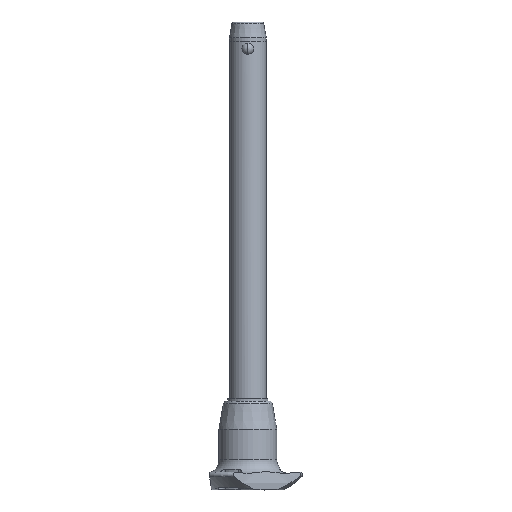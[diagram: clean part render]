
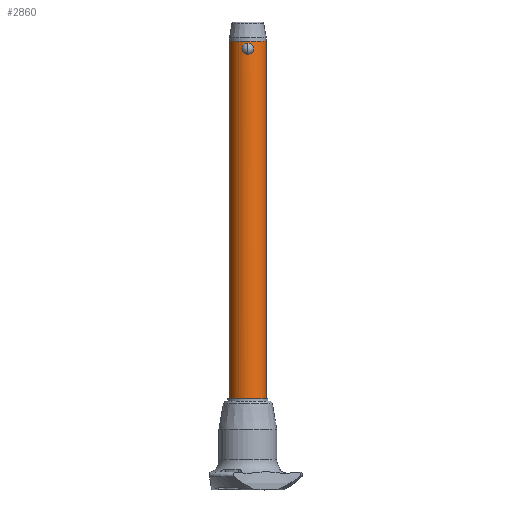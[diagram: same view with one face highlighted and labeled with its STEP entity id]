
A CAD part, front view. The second image highlights one B-rep face of the part: STEP entity #2860.
In plain terms, the highlighted cylindrical face has radius 8 mm (diameter 16 mm), a partial arc.
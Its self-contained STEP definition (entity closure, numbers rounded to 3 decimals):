
#139 = CARTESIAN_POINT ( 'NONE',  ( 1.253, -7.903, 4.478 ) ) ;
#153 = CARTESIAN_POINT ( 'NONE',  ( 2.461, -7.612, 3.027 ) ) ;
#156 = VERTEX_POINT ( 'NONE', #1818 ) ;
#161 = EDGE_CURVE ( 'NONE', #1519, #591, #2063, .T. ) ;
#176 = ORIENTED_EDGE ( 'NONE', *, *, #1762, .F. ) ;
#197 = CARTESIAN_POINT ( 'NONE',  ( -1.659, -7.827, 0.559 ) ) ;
#211 = CARTESIAN_POINT ( 'NONE',  ( -2.529, -7.59, 2.064 ) ) ;
#259 = CARTESIAN_POINT ( 'NONE',  ( 0., -8., 4.775 ) ) ;
#316 = DIRECTION ( 'NONE',  ( 0., 0., 1. ) ) ;
#421 = CARTESIAN_POINT ( 'NONE',  ( -1.252, -7.903, 4.479 ) ) ;
#462 = CARTESIAN_POINT ( 'NONE',  ( -2.459, -7.613, 3.036 ) ) ;
#537 = AXIS2_PLACEMENT_3D ( 'NONE', #2753, #1414, #2104 ) ;
#554 = LINE ( 'NONE', #1434, #2826 ) ;
#560 = CARTESIAN_POINT ( 'NONE',  ( 1.894, -7.773, 0.773 ) ) ;
#591 = VERTEX_POINT ( 'NONE', #1367 ) ;
#615 = CARTESIAN_POINT ( 'NONE',  ( 0., -8., 0. ) ) ;
#662 = CARTESIAN_POINT ( 'NONE',  ( -2.411, -7.628, 1.592 ) ) ;
#676 = DIRECTION ( 'NONE',  ( 1., 0., 0. ) ) ;
#687 = CARTESIAN_POINT ( 'NONE',  ( -2.211, -7.69, 1.148 ) ) ;
#734 = LINE ( 'NONE', #1916, #2524 ) ;
#738 = ORIENTED_EDGE ( 'NONE', *, *, #2262, .F. ) ;
#757 = ORIENTED_EDGE ( 'NONE', *, *, #161, .F. ) ;
#776 = CARTESIAN_POINT ( 'NONE',  ( 1.105, -7.925, 0.226 ) ) ;
#785 = CARTESIAN_POINT ( 'NONE',  ( 0., 0., -150. ) ) ;
#792 = CARTESIAN_POINT ( 'NONE',  ( 2.547, -7.584, 2.549 ) ) ;
#817 = CARTESIAN_POINT ( 'NONE',  ( 2.529, -7.59, 2.71 ) ) ;
#825 = FACE_BOUND ( 'NONE', #1625, .T. ) ;
#874 = CARTESIAN_POINT ( 'NONE',  ( -2.276, -7.67, 3.482 ) ) ;
#894 = AXIS2_PLACEMENT_3D ( 'NONE', #785, #1953, #2803 ) ;
#906 = AXIS2_PLACEMENT_3D ( 'NONE', #2286, #2697, #676 ) ;
#943 = ORIENTED_EDGE ( 'NONE', *, *, #2516, .T. ) ;
#993 = CYLINDRICAL_SURFACE ( 'NONE', #894, 8. ) ;
#1010 = CIRCLE ( 'NONE', #537, 8. ) ;
#1015 = CARTESIAN_POINT ( 'NONE',  ( 0.652, -7.979, 0.058 ) ) ;
#1030 = CARTESIAN_POINT ( 'NONE',  ( 2.46, -7.613, 1.742 ) ) ;
#1060 = CARTESIAN_POINT ( 'NONE',  ( 1.108, -7.924, 4.548 ) ) ;
#1114 = CARTESIAN_POINT ( 'NONE',  ( -2.547, -7.584, 2.229 ) ) ;
#1154 = CARTESIAN_POINT ( 'NONE',  ( -0.645, -7.976, 4.704 ) ) ;
#1244 = CARTESIAN_POINT ( 'NONE',  ( 1.657, -7.827, 0.558 ) ) ;
#1267 = CARTESIAN_POINT ( 'NONE',  ( -8., 0., -150. ) ) ;
#1274 = CARTESIAN_POINT ( 'NONE',  ( 2.275, -7.67, 1.291 ) ) ;
#1289 = CARTESIAN_POINT ( 'NONE',  ( 0.326, -7.995, 4.761 ) ) ;
#1320 = CARTESIAN_POINT ( 'NONE',  ( -2.529, -7.59, 2.716 ) ) ;
#1332 = CARTESIAN_POINT ( 'NONE',  ( 0., -8., 4.775 ) ) ;
#1345 = CARTESIAN_POINT ( 'NONE',  ( -1.896, -7.773, 4.001 ) ) ;
#1364 = CARTESIAN_POINT ( 'NONE',  ( -1.53, -7.854, 0.464 ) ) ;
#1367 = CARTESIAN_POINT ( 'NONE',  ( 0., -8., 0. ) ) ;
#1377 = CARTESIAN_POINT ( 'NONE',  ( -1.106, -7.925, 0.226 ) ) ;
#1414 = DIRECTION ( 'NONE',  ( 0., 0., -1. ) ) ;
#1434 = CARTESIAN_POINT ( 'NONE',  ( -8., 0., -150. ) ) ;
#1459 = CARTESIAN_POINT ( 'NONE',  ( 2.211, -7.69, 3.626 ) ) ;
#1516 = CARTESIAN_POINT ( 'NONE',  ( 2.194, -7.694, 1.153 ) ) ;
#1519 = VERTEX_POINT ( 'NONE', #259 ) ;
#1550 = CARTESIAN_POINT ( 'NONE',  ( -1.254, -7.902, 0.297 ) ) ;
#1574 = EDGE_CURVE ( 'NONE', #156, #2291, #1010, .T. ) ;
#1577 = CARTESIAN_POINT ( 'NONE',  ( -2.408, -7.629, 3.189 ) ) ;
#1591 = CARTESIAN_POINT ( 'NONE',  ( -2.016, -7.746, 0.883 ) ) ;
#1593 = VERTEX_POINT ( 'NONE', #2366 ) ;
#1604 = CARTESIAN_POINT ( 'NONE',  ( -0.803, -7.961, 4.661 ) ) ;
#1625 = EDGE_LOOP ( 'NONE', ( #757, #1653 ) ) ;
#1653 = ORIENTED_EDGE ( 'NONE', *, *, #1985, .F. ) ;
#1701 = CARTESIAN_POINT ( 'NONE',  ( 2.016, -7.746, 3.891 ) ) ;
#1726 = CARTESIAN_POINT ( 'NONE',  ( 1.252, -7.903, 0.296 ) ) ;
#1762 = EDGE_CURVE ( 'NONE', #2451, #1593, #2052, .T. ) ;
#1773 = CARTESIAN_POINT ( 'NONE',  ( -0.652, -7.979, 0.058 ) ) ;
#1774 = EDGE_LOOP ( 'NONE', ( #738, #2272, #943, #176 ) ) ;
#1787 = CARTESIAN_POINT ( 'NONE',  ( -2.546, -7.584, 2.553 ) ) ;
#1818 = CARTESIAN_POINT ( 'NONE',  ( 8., 0., -150. ) ) ;
#1868 = B_SPLINE_CURVE_WITH_KNOTS ( 'NONE', 3,
 ( #615, #2595, #1015, #776, #1726, #2376, #1244, #560, #1927, #1516, #1274, #1913, #1030, #2820, #1970, #792, #817, #153, #2405, #1459, #1701, #2610, #2165, #139, #1060, #2621, #1958, #1289, #2435, #2835 ),
 .UNSPECIFIED., .F., .F.,
 ( 4, 2, 2, 2, 2, 2, 2, 2, 2, 2, 2, 2, 2, 2, 4 ),
 ( 0.008, 0.009, 0.009, 0.01, 0.01, 0.011, 0.011, 0.012, 0.012, 0.013, 0.014, 0.014, 0.015, 0.015, 0.016 ),
 .UNSPECIFIED. ) ;
#1906 = FACE_OUTER_BOUND ( 'NONE', #1774, .T. ) ;
#1913 = CARTESIAN_POINT ( 'NONE',  ( 2.408, -7.629, 1.586 ) ) ;
#1916 = CARTESIAN_POINT ( 'NONE',  ( 8., 0., -150. ) ) ;
#1927 = CARTESIAN_POINT ( 'NONE',  ( 2.004, -7.746, 0.894 ) ) ;
#1953 = DIRECTION ( 'NONE',  ( 0., 0., 1. ) ) ;
#1958 = CARTESIAN_POINT ( 'NONE',  ( 0.645, -7.976, 4.704 ) ) ;
#1970 = CARTESIAN_POINT ( 'NONE',  ( 2.546, -7.584, 2.22 ) ) ;
#1985 = EDGE_CURVE ( 'NONE', #591, #1519, #1868, .T. ) ;
#2014 = CARTESIAN_POINT ( 'NONE',  ( -1.107, -7.924, 4.548 ) ) ;
#2052 = CIRCLE ( 'NONE', #906, 8. ) ;
#2063 = B_SPLINE_CURVE_WITH_KNOTS ( 'NONE', 3,
 ( #1332, #2720, #2256, #1154, #1604, #2014, #421, #2695, #2507, #1345, #2906, #2917, #874, #1577, #462, #1320, #1787, #1114, #211, #2243, #662, #687, #1591, #197, #1364, #1550, #1377, #1773, #2707, #2682 ),
 .UNSPECIFIED., .F., .F.,
 ( 4, 2, 2, 2, 2, 2, 2, 2, 2, 2, 2, 2, 2, 2, 4 ),
 ( 0., 0., 0.001, 0.001, 0.002, 0.002, 0.003, 0.003, 0.004, 0.004, 0.005, 0.006, 0.006, 0.007, 0.008 ),
 .UNSPECIFIED. ) ;
#2104 = DIRECTION ( 'NONE',  ( 1., 0., 0. ) ) ;
#2165 = CARTESIAN_POINT ( 'NONE',  ( 1.529, -7.854, 4.312 ) ) ;
#2243 = CARTESIAN_POINT ( 'NONE',  ( -2.461, -7.612, 1.746 ) ) ;
#2256 = CARTESIAN_POINT ( 'NONE',  ( -0.326, -7.995, 4.761 ) ) ;
#2262 = EDGE_CURVE ( 'NONE', #2291, #2451, #554, .T. ) ;
#2272 = ORIENTED_EDGE ( 'NONE', *, *, #1574, .F. ) ;
#2286 = CARTESIAN_POINT ( 'NONE',  ( 0., 0., 5.6 ) ) ;
#2291 = VERTEX_POINT ( 'NONE', #1267 ) ;
#2366 = CARTESIAN_POINT ( 'NONE',  ( 8., 0., 5.6 ) ) ;
#2376 = CARTESIAN_POINT ( 'NONE',  ( 1.529, -7.854, 0.463 ) ) ;
#2405 = CARTESIAN_POINT ( 'NONE',  ( 2.41, -7.629, 3.184 ) ) ;
#2435 = CARTESIAN_POINT ( 'NONE',  ( 0.164, -8., 4.775 ) ) ;
#2451 = VERTEX_POINT ( 'NONE', #2539 ) ;
#2507 = CARTESIAN_POINT ( 'NONE',  ( -1.658, -7.827, 4.216 ) ) ;
#2516 = EDGE_CURVE ( 'NONE', #156, #1593, #734, .T. ) ;
#2524 = VECTOR ( 'NONE', #2783, 1000. ) ;
#2539 = CARTESIAN_POINT ( 'NONE',  ( -8., 0., 5.6 ) ) ;
#2595 = CARTESIAN_POINT ( 'NONE',  ( 0.324, -8., 0. ) ) ;
#2610 = CARTESIAN_POINT ( 'NONE',  ( 1.66, -7.827, 4.215 ) ) ;
#2621 = CARTESIAN_POINT ( 'NONE',  ( 0.804, -7.961, 4.661 ) ) ;
#2682 = CARTESIAN_POINT ( 'NONE',  ( 0., -8., 0. ) ) ;
#2695 = CARTESIAN_POINT ( 'NONE',  ( -1.527, -7.854, 4.313 ) ) ;
#2697 = DIRECTION ( 'NONE',  ( 0., 0., 1. ) ) ;
#2707 = CARTESIAN_POINT ( 'NONE',  ( -0.324, -8., 0. ) ) ;
#2720 = CARTESIAN_POINT ( 'NONE',  ( -0.164, -8., 4.775 ) ) ;
#2753 = CARTESIAN_POINT ( 'NONE',  ( 0., 0., -150. ) ) ;
#2783 = DIRECTION ( 'NONE',  ( 0., 0., 1. ) ) ;
#2803 = DIRECTION ( 'NONE',  ( 1., 0., 0. ) ) ;
#2820 = CARTESIAN_POINT ( 'NONE',  ( 2.528, -7.59, 2.058 ) ) ;
#2826 = VECTOR ( 'NONE', #316, 1000. ) ;
#2835 = CARTESIAN_POINT ( 'NONE',  ( 0., -8., 4.775 ) ) ;
#2860 = ADVANCED_FACE ( 'NONE', ( #1906, #825 ), #993, .T. ) ;
#2906 = CARTESIAN_POINT ( 'NONE',  ( -2.003, -7.746, 3.882 ) ) ;
#2917 = CARTESIAN_POINT ( 'NONE',  ( -2.193, -7.694, 3.623 ) ) ;
